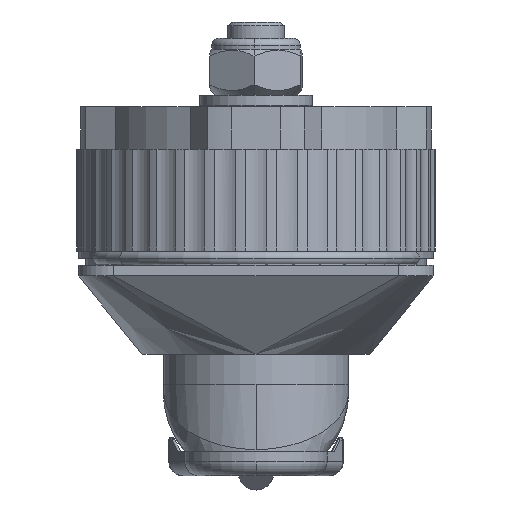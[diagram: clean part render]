
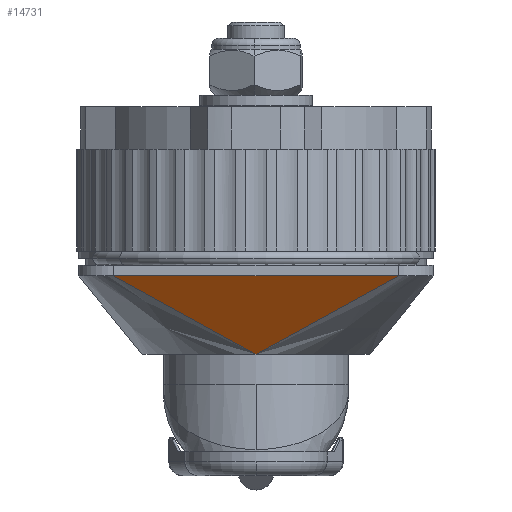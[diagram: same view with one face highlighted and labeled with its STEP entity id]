
A CAD part, front view. The second image highlights one B-rep face of the part: STEP entity #14731.
In plain terms, the highlighted planar face has unit normal (0, -0.809, -0.588).
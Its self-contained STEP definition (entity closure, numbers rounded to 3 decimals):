
#14627 = VERTEX_POINT ( 'NONE', #20836 ) ;
#14666 = EDGE_LOOP ( 'NONE', ( #14733, #14735, #14744 ) ) ;
#14671 = EDGE_CURVE ( 'NONE', #14627, #14687, #20958, .T. ) ;
#14673 = EDGE_CURVE ( 'NONE', #14687, #14674, #20946, .T. ) ;
#14674 = VERTEX_POINT ( 'NONE', #20955 ) ;
#14687 = VERTEX_POINT ( 'NONE', #20996 ) ;
#14731 = ADVANCED_FACE ( 'NONE', ( #21082 ), #21058, .F. ) ;
#14733 = ORIENTED_EDGE ( 'NONE', *, *, #14671, .T. ) ;
#14735 = ORIENTED_EDGE ( 'NONE', *, *, #14673, .T. ) ;
#14736 = EDGE_CURVE ( 'NONE', #14627, #14674, #19706, .T. ) ;
#14744 = ORIENTED_EDGE ( 'NONE', *, *, #14736, .F. ) ;
#19706 = LINE ( 'NONE', #19715, #19902 ) ;
#19714 = DIRECTION ( 'NONE',  ( -0.827, -0.331, 0.455 ) ) ;
#19715 = CARTESIAN_POINT ( 'NONE',  ( 0., -87.5, 0. ) ) ;
#19902 = VECTOR ( 'NONE', #19714, 1000. ) ;
#20836 = CARTESIAN_POINT ( 'NONE',  ( 0., -87.5, 0. ) ) ;
#20943 = DIRECTION ( 'NONE',  ( -1., 0., 0. ) ) ;
#20944 = VECTOR ( 'NONE', #20943, 1000. ) ;
#20945 = CARTESIAN_POINT ( 'NONE',  ( 50.592, -95.5, 11. ) ) ;
#20946 = LINE ( 'NONE', #20945, #20944 ) ;
#20947 = DIRECTION ( 'NONE',  ( 0.827, -0.331, 0.455 ) ) ;
#20948 = VECTOR ( 'NONE', #20947, 1000. ) ;
#20955 = CARTESIAN_POINT ( 'NONE',  ( -20., -95.5, 11. ) ) ;
#20957 = CARTESIAN_POINT ( 'NONE',  ( 0., -87.5, 0. ) ) ;
#20958 = LINE ( 'NONE', #20957, #20948 ) ;
#20996 = CARTESIAN_POINT ( 'NONE',  ( 20., -95.5, 11. ) ) ;
#21058 = PLANE ( 'NONE',  #21064 ) ;
#21064 = AXIS2_PLACEMENT_3D ( 'NONE', #21080, #21078, #21077 ) ;
#21077 = DIRECTION ( 'NONE',  ( 0., -0.588, 0.809 ) ) ;
#21078 = DIRECTION ( 'NONE',  ( 0., 0.809, 0.588 ) ) ;
#21080 = CARTESIAN_POINT ( 'NONE',  ( 50.592, -95.5, 11. ) ) ;
#21082 = FACE_OUTER_BOUND ( 'NONE', #14666, .T. ) ;
